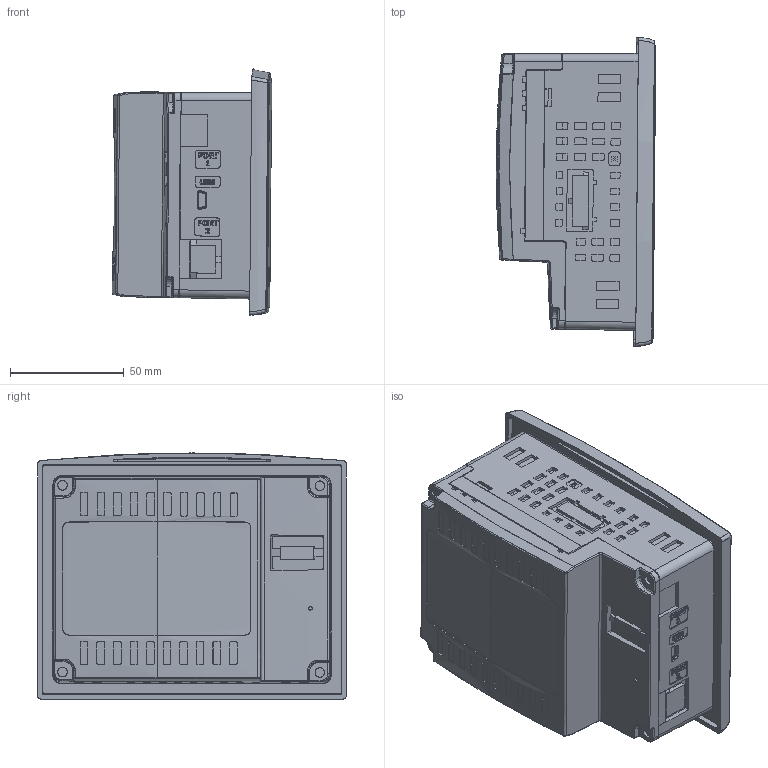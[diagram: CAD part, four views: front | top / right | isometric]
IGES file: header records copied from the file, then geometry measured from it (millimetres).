
Start section: SolidWorks IGES file using analytic representation for surfaces
Global section: file name: D:\Project\Samba\Samba 4.3\CAD Files\IGES\V430.IGS; native system: SolidWorks 2011; preprocessor: SolidWorks 2011; author: baraki; date: 141021.144234; units: millimetre
Bounding box: 70.22 x 136 x 108.39 mm (x, y, z)
Surface area: 72634.1 mm2 (no closed solid volume)
Topology: 0 solids, 0 shells, 2149 faces, 17401 edges, 17388 vertices
Faces by surface type: bspline 1525, revolution 624
